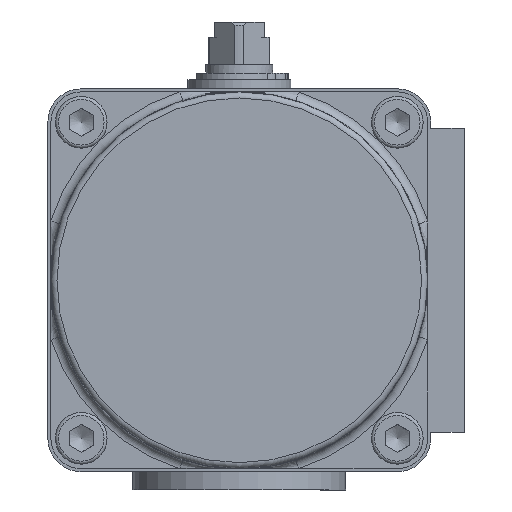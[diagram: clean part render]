
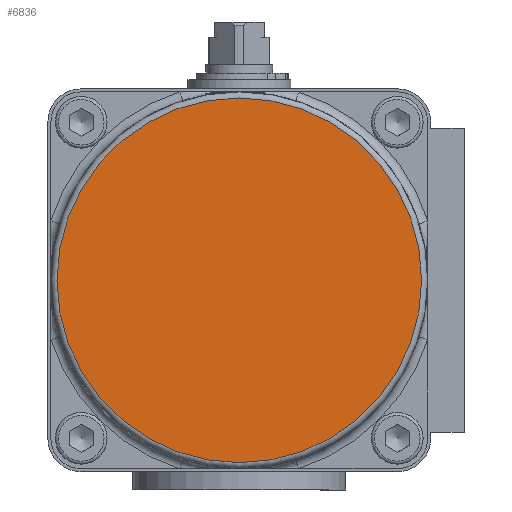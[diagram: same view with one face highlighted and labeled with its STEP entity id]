
A CAD part, left-side view. The second image highlights one B-rep face of the part: STEP entity #6836.
In plain terms, the highlighted planar face has unit normal (-1, 0, 0).
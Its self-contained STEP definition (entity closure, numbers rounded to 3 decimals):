
#1422=PLANE('',#7500);
#1727=FACE_OUTER_BOUND('',#2138,.T.);
#2138=EDGE_LOOP('',(#5435));
#2576=CIRCLE('',#7494,30.);
#3058=VERTEX_POINT('',#12117);
#3894=EDGE_CURVE('',#3058,#3058,#2576,.T.);
#5435=ORIENTED_EDGE('',*,*,#3894,.F.);
#6836=ADVANCED_FACE('',(#1727),#1422,.F.);
#7494=AXIS2_PLACEMENT_3D('',#12119,#8957,#8958);
#7500=AXIS2_PLACEMENT_3D('',#12233,#8970,#8971);
#8957=DIRECTION('center_axis',(1.,0.,0.));
#8958=DIRECTION('ref_axis',(0.,0.,
-1.));
#8970=DIRECTION('center_axis',(1.,0.,0.));
#8971=DIRECTION('ref_axis',(0.,0.,
-1.));
#12117=CARTESIAN_POINT('',(-66.55,0.,30.));
#12119=CARTESIAN_POINT('Origin',(-66.55,0.,0.));
#12233=CARTESIAN_POINT('Origin',(-66.55,0.,0.));
